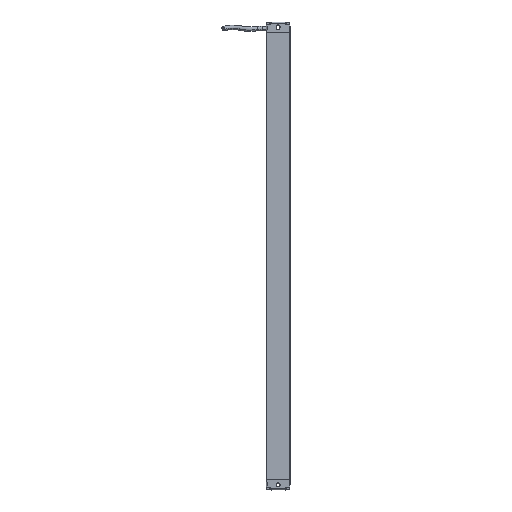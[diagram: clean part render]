
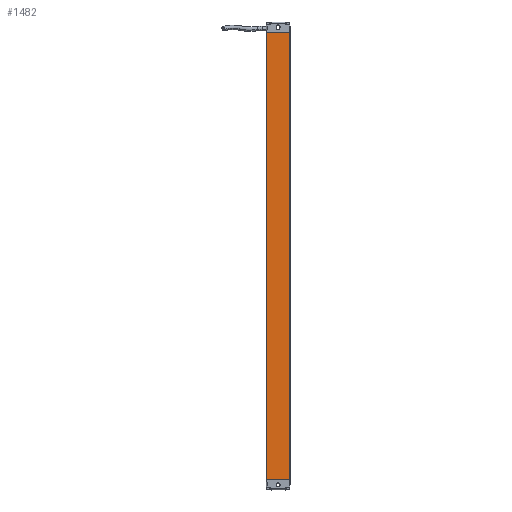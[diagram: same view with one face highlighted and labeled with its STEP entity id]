
A CAD part, front view. The second image highlights one B-rep face of the part: STEP entity #1482.
In plain terms, the highlighted planar face has unit normal (-0.001, -1, 0).
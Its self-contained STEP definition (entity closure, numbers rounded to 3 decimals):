
#1482=ADVANCED_FACE('',(#2588),#2115,.T.);
#2115=PLANE('',#14912);
#2588=FACE_OUTER_BOUND('',#3333,.T.);
#3333=EDGE_LOOP('',(#5778,#5779,#5780,#5781));
#5778=ORIENTED_EDGE('',*,*,#10700,.T.);
#5779=ORIENTED_EDGE('',*,*,#10653,.F.);
#5780=ORIENTED_EDGE('',*,*,#10698,.T.);
#5781=ORIENTED_EDGE('',*,*,#10701,.T.);
#9003=VERTEX_POINT('',#22596);
#9004=VERTEX_POINT('',#22598);
#9041=VERTEX_POINT('',#22687);
#9042=VERTEX_POINT('',#22691);
#10653=EDGE_CURVE('',#9003,#9004,#12502,.T.);
#10698=EDGE_CURVE('',#9003,#9041,#12533,.T.);
#10700=EDGE_CURVE('',#9042,#9004,#12534,.T.);
#10701=EDGE_CURVE('',#9041,#9042,#12535,.T.);
#12502=LINE('',#22597,#13717);
#12533=LINE('',#22686,#13748);
#12534=LINE('',#22690,#13749);
#12535=LINE('',#22692,#13750);
#13717=VECTOR('',#17065,1.);
#13748=VECTOR('',#17138,1.);
#13749=VECTOR('',#17143,1.);
#13750=VECTOR('',#17144,1.);
#14912=AXIS2_PLACEMENT_3D('',#22693,#17145,#17146);
#17065=DIRECTION('',(1.,-0.001,0.));
#17138=DIRECTION('',(0.,0.,-1.));
#17143=DIRECTION('',(0.,0.,1.));
#17144=DIRECTION('',(1.,-0.001,0.));
#17145=DIRECTION('',(-0.001,-1.,0.));
#17146=DIRECTION('',(-1.,0.001,0.));
#22596=CARTESIAN_POINT('',(53.048,-142.376,280.376));
#22597=CARTESIAN_POINT('',(79.028,-142.395,280.376));
#22598=CARTESIAN_POINT('',(79.028,-142.395,280.376));
#22686=CARTESIAN_POINT('',(53.048,-142.376,543.376));
#22687=CARTESIAN_POINT('',(53.048,-142.376,-241.624));
#22690=CARTESIAN_POINT('',(79.028,-142.395,198.376));
#22691=CARTESIAN_POINT('',(79.028,-142.395,-241.624));
#22692=CARTESIAN_POINT('',(79.028,-142.395,-241.624));
#22693=CARTESIAN_POINT('',(79.028,-142.395,543.376));
